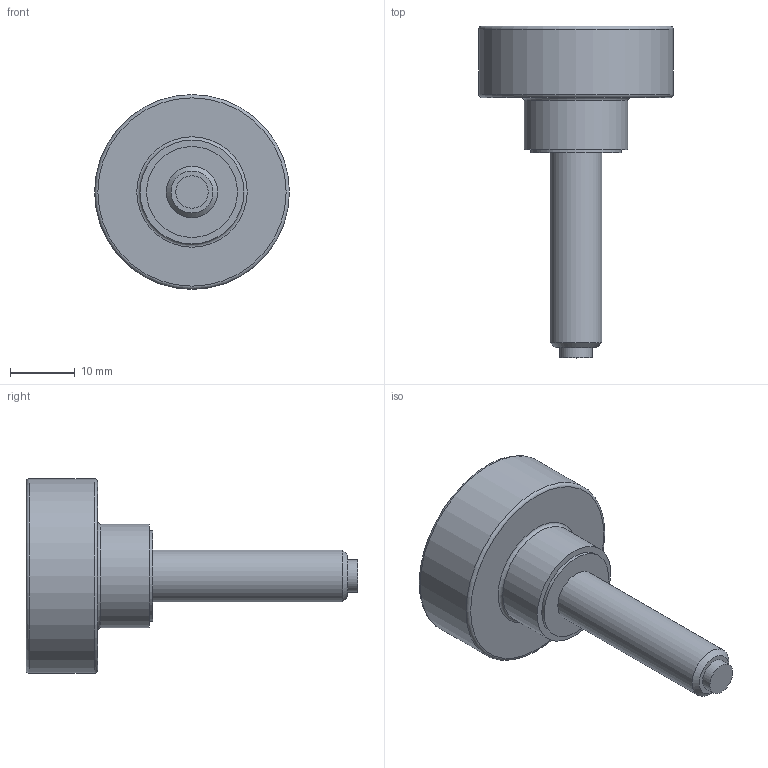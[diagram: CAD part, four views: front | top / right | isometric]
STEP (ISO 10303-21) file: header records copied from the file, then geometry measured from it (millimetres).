
FILE_DESCRIPTION( ( 'STEP AP203' ), '1' );
FILE_NAME( 'C:/Temp/Ganter_Step_05_03_2020/data/2_2/gn_421_10/Hollow knurled knob, with tip GN 421.10-M8-30-KU.stp', '2020-03-05T12:25:35', ( 'License CC BY-ND 4.0' ), ( 'CADENAS' ), ' ', 'PARTsolutions', ' ' );
FILE_SCHEMA( ( 'CONFIG_CONTROL_DESIGN' ) );
Length unit declared in the file: millimetre
Products named in the file (1): _Hollow knurled knob, with tip GN 421.10-M8-30-KU
Bounding box: 30 x 51.1 x 30 mm (x, y, z)
Volume: 7300.1 mm3; surface area: 4258.3 mm2
Topology: 1 solids, 1 shells, 19 faces, 30 edges, 19 vertices
Faces by surface type: plane 8, cylinder 7, torus 3, cone 1
Full cylindrical faces by diameter (mm): 5 x1, 8 x1, 12 x1, 14 x1, 16 x1, 26 x1, 30 x1
Entity records: 418 total; most frequent: DIRECTION 76, CARTESIAN_POINT 56, AXIS2_PLACEMENT_3D 38, EDGE_LOOP 36, ORIENTED_EDGE 36, FACE_OUTER_BOUND 29, ADVANCED_FACE 19, EDGE_CURVE 18
